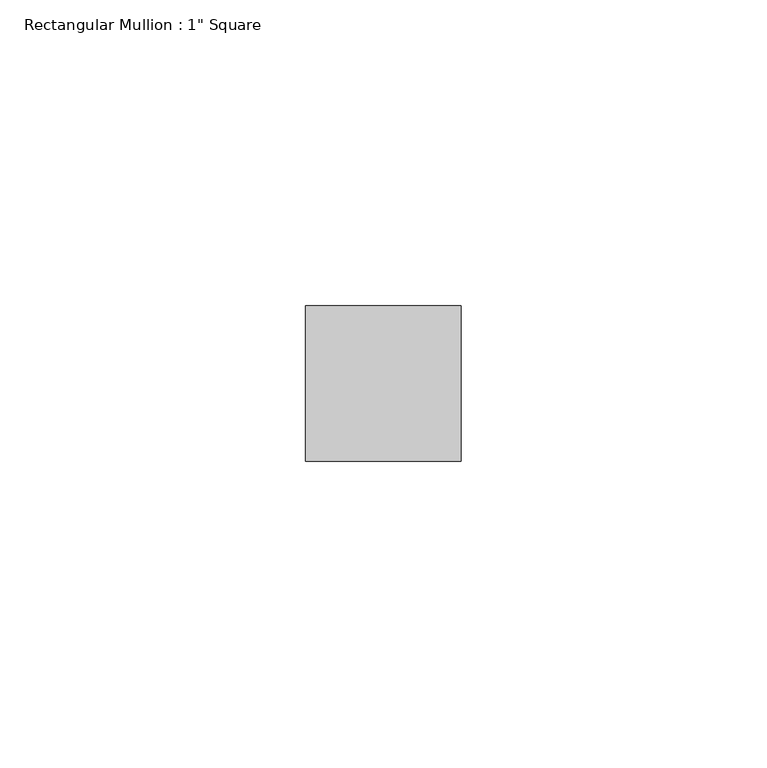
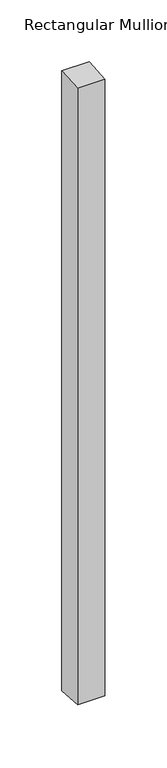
"""IFC4 building model written with IfcOpenShell, lengths in millimetres: member geometry."""

from ifc_helpers import new_model, si_unit, origin, place, context, project, spatial, faceted_brep, source, transform, mapped, element, save


def member_bfbbd4af(model_context):
    return source(origin(), model_context, "Body", "Brep", [
        faceted_brep([(-25.4, 12.7, 0.7987661), (0.0, 12.7, 0.7584736), (0.0, 12.7, -610.3584736), (-25.4, 12.7, -610.3987661), (-25.4, -12.7, -0.7181811), (-25.4, -12.7, -608.8818189), (0.0, -12.7, -0.7584736), (0.0, -12.7, -608.8415264)], [[[0, 1, 2, 3]], [[4, 0, 3, 5]], [[6, 4, 5, 7]], [[1, 6, 7, 2]], [[1, 0, 4, 6]], [[2, 7, 5, 3]]]),
    ])


if __name__ == "__main__":
    model = new_model("IFC4")
    model_context = context("Model", 3, world=origin())
    ifc_project = project(units=[si_unit("LENGTHUNIT", "METRE", prefix="MILLI")], contexts=[model_context])
    site = spatial("IfcSite", under=ifc_project)
    building = spatial("IfcBuilding", under=site)
    placement = place(None, origin())
    member_shape = member_bfbbd4af(model_context)
    element("IfcMember", 1, ObjectType="Rectangular Mullion : 1\" Square", at=placement, inside=building, context=model_context, shape_type="MappedRepresentation", body=[
        mapped(member_shape, transform((0.0, 0.0, 0.0), x_axis=(1.0, 0.0, 0.0), y_axis=(0.0, 1.0, 0.0), z_axis=(0.0, 0.0, 1.0))),
    ])
    save(model, "model.ifc")
